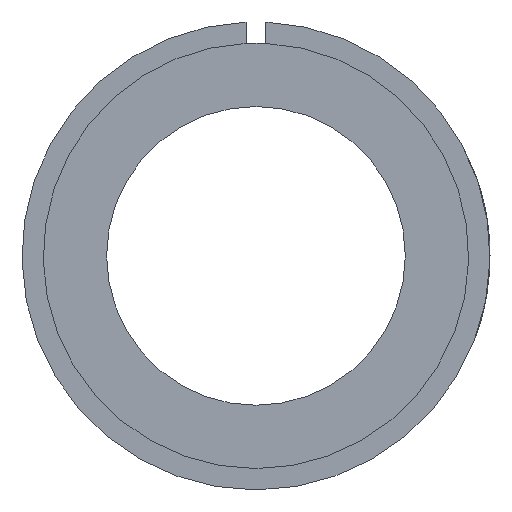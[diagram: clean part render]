
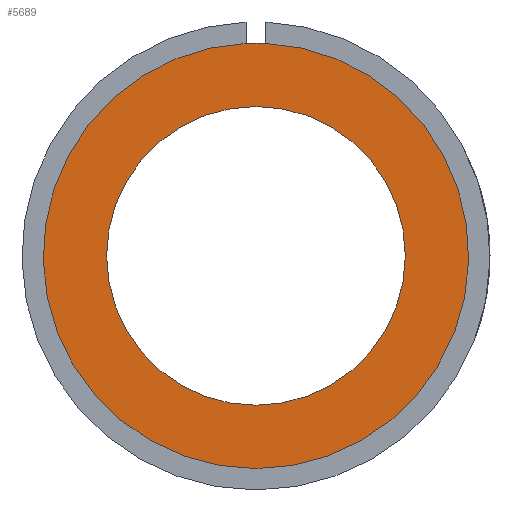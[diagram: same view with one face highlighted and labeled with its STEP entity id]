
A CAD part, left-side view. The second image highlights one B-rep face of the part: STEP entity #5689.
In plain terms, the highlighted planar face has unit normal (-1, 0, 0).
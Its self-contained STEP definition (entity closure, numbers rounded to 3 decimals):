
#131=PLANE('',#6130);
#1352=CIRCLE('',#6105,15.);
#1365=CIRCLE('',#6131,21.359);
#1366=CIRCLE('',#6132,21.359);
#1749=ORIENTED_EDGE('',*,*,#3462,.F.);
#1750=ORIENTED_EDGE('',*,*,#3463,.F.);
#1751=ORIENTED_EDGE('',*,*,#3427,.T.);
#3427=EDGE_CURVE('',#4290,#4290,#1352,.F.);
#3462=EDGE_CURVE('',#4313,#4314,#1365,.T.);
#3463=EDGE_CURVE('',#4314,#4313,#1366,.T.);
#4290=VERTEX_POINT('',#8949);
#4313=VERTEX_POINT('',#9020);
#4314=VERTEX_POINT('',#9021);
#4876=EDGE_LOOP('',(#1749,#1750));
#4877=EDGE_LOOP('',(#1751));
#5274=FACE_BOUND('',#4876,.T.);
#5275=FACE_BOUND('',#4877,.T.);
#5689=ADVANCED_FACE('',(#5274,#5275),#131,.T.);
#6105=AXIS2_PLACEMENT_3D('',#8948,#6678,#6679);
#6130=AXIS2_PLACEMENT_3D('',#9018,#6750,#6751);
#6131=AXIS2_PLACEMENT_3D('',#9019,#6752,#6753);
#6132=AXIS2_PLACEMENT_3D('',#9022,#6754,#6755);
#6678=DIRECTION('',(-1.,0.,0.));
#6679=DIRECTION('',(0.,0.,1.));
#6750=DIRECTION('',(-1.,0.,0.));
#6751=DIRECTION('',(0.,0.,-1.));
#6752=DIRECTION('',(1.,0.,0.));
#6753=DIRECTION('',(0.,0.,-1.));
#6754=DIRECTION('',(1.,0.,0.));
#6755=DIRECTION('',(0.,0.,-1.));
#8948=CARTESIAN_POINT('',(-32.,0.,0.));
#8949=CARTESIAN_POINT('',(-32.,0.,15.));
#9018=CARTESIAN_POINT('',(-32.,0.,0.));
#9019=CARTESIAN_POINT('',(-32.,0.,0.));
#9020=CARTESIAN_POINT('',(-32.,1.,21.336));
#9021=CARTESIAN_POINT('',(-32.,-1.,21.336));
#9022=CARTESIAN_POINT('',(-32.,0.,0.));
